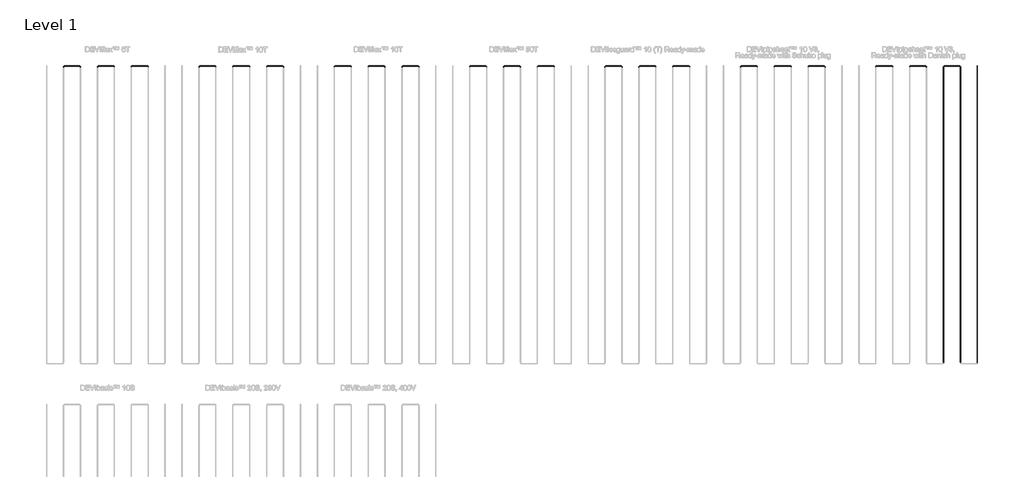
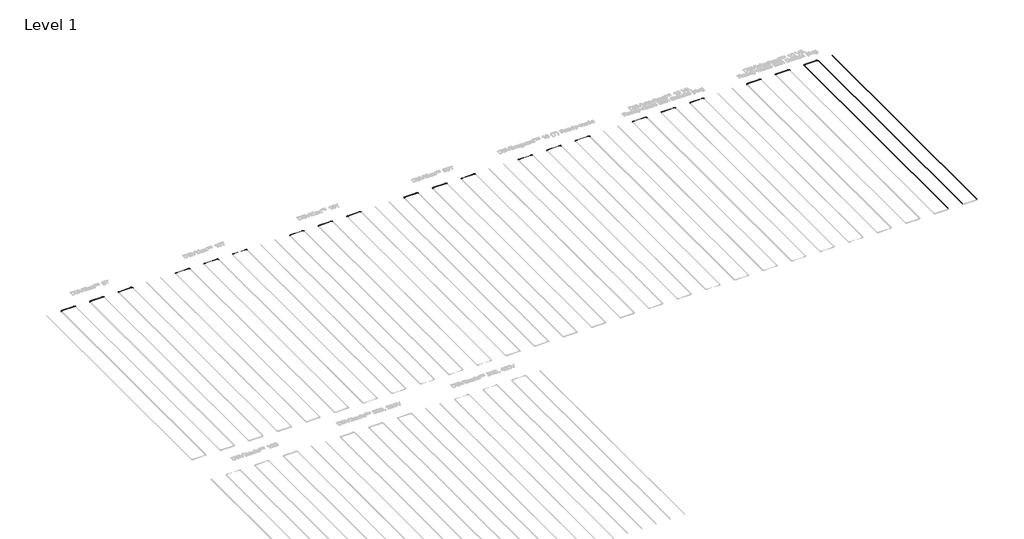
# One storey, part 9 of 26: 42 cable carrier fittings, 24 cable carrier segments.
"""IFC4 building model written with IfcOpenShell, lengths in millimetres."""

from ifc_helpers import new_model, si_unit, point, frame, frame_2d, origin, place, context, project, spatial, circle_curve, trimmed, segment, composite_curve, outline, extrude, transform, mapped, element, save
from components import cable_carrier_fitting_e4b1aeb6

model = new_model("IFC4")

# Units and contexts
model_context = context("Model", 3, world=origin())
ifc_project = project(units=[si_unit("LENGTHUNIT", "METRE", prefix="MILLI")], contexts=[model_context])

# Site, building, storey
site = spatial("IfcSite", under=ifc_project)
building = spatial("IfcBuilding", under=site)
storey = spatial("IfcBuildingStorey", under=building, Name="Level 1", Elevation=0.0)

# Cable carrier fittings
placement = place(None, origin())
cable_carrier_fitting_shape = cable_carrier_fitting_e4b1aeb6(model_context)
element("IfcCableCarrierFitting", 1, ObjectType="Danfoss Elbow : DEVIflex™ 6T", at=placement, inside=storey, context=model_context, shape_type="MappedRepresentation", body=[
    mapped(cable_carrier_fitting_shape, transform((-11087.3402445, 2061.2105921, -100.0), x_axis=(-1.0, 0.0, 0.0), y_axis=(0.0, -1.0, 0.0), z_axis=(0.0, 0.0, 1.0))),
])
element("IfcCableCarrierFitting", 2, ObjectType="Danfoss Elbow : DEVIflex™ 6T", at=placement, inside=storey, context=model_context, shape_type="MappedRepresentation", body=[
    mapped(cable_carrier_fitting_shape, transform((-10587.3402445, 2061.2105921, -100.0), x_axis=(0.0, 1.0, 0.0), y_axis=(-1.0, 0.0, 0.0), z_axis=(0.0, 0.0, 1.0))),
])
element("IfcCableCarrierFitting", 3, ObjectType="Danfoss Elbow : DEVIflex™ 6T", at=placement, inside=storey, context=model_context, shape_type="MappedRepresentation", body=[
    mapped(cable_carrier_fitting_shape, transform((-10087.3402445, 2061.2105921, -100.0), x_axis=(-1.0, 0.0, 0.0), y_axis=(0.0, -1.0, 0.0), z_axis=(0.0, 0.0, 1.0))),
])
element("IfcCableCarrierFitting", 4, ObjectType="Danfoss Elbow : DEVIflex™ 6T", at=placement, inside=storey, context=model_context, shape_type="MappedRepresentation", body=[
    mapped(cable_carrier_fitting_shape, transform((-9587.3402445, 2061.2105921, -100.0), x_axis=(0.0, 1.0, 0.0), y_axis=(-1.0, 0.0, 0.0), z_axis=(0.0, 0.0, 1.0))),
])
element("IfcCableCarrierFitting", 5, ObjectType="Danfoss Elbow : DEVIflex™ 6T", at=placement, inside=storey, context=model_context, shape_type="MappedRepresentation", body=[
    mapped(cable_carrier_fitting_shape, transform((-9087.3402445, 2061.2105921, -100.0), x_axis=(-1.0, 0.0, 0.0), y_axis=(0.0, -1.0, 0.0), z_axis=(0.0, 0.0, 1.0))),
])
element("IfcCableCarrierFitting", 6, ObjectType="Danfoss Elbow : DEVIflex™ 6T", at=placement, inside=storey, context=model_context, shape_type="MappedRepresentation", body=[
    mapped(cable_carrier_fitting_shape, transform((-8587.3402445, 2061.2105921, -100.0), x_axis=(0.0, 1.0, 0.0), y_axis=(-1.0, 0.0, 0.0), z_axis=(0.0, 0.0, 1.0))),
])
element("IfcCableCarrierFitting", 7, ObjectType="Danfoss Elbow : DEVIflex™ 10T", at=placement, inside=storey, context=model_context, shape_type="MappedRepresentation", body=[
    mapped(cable_carrier_fitting_shape, transform((-7087.3402445, 2061.2105921, -100.0), x_axis=(-1.0, 0.0, 0.0), y_axis=(0.0, -1.0, 0.0), z_axis=(0.0, 0.0, 1.0))),
])
element("IfcCableCarrierFitting", 8, ObjectType="Danfoss Elbow : DEVIflex™ 10T", at=placement, inside=storey, context=model_context, shape_type="MappedRepresentation", body=[
    mapped(cable_carrier_fitting_shape, transform((-6587.3402445, 2061.2105921, -100.0), x_axis=(0.0, 1.0, 0.0), y_axis=(-1.0, 0.0, 0.0), z_axis=(0.0, 0.0, 1.0))),
])
element("IfcCableCarrierFitting", 9, ObjectType="Danfoss Elbow : DEVIflex™ 10T", at=placement, inside=storey, context=model_context, shape_type="MappedRepresentation", body=[
    mapped(cable_carrier_fitting_shape, transform((-6087.3402445, 2061.2105921, -100.0), x_axis=(-1.0, 0.0, 0.0), y_axis=(0.0, -1.0, 0.0), z_axis=(0.0, 0.0, 1.0))),
])
element("IfcCableCarrierFitting", 10, ObjectType="Danfoss Elbow : DEVIflex™ 10T", at=placement, inside=storey, context=model_context, shape_type="MappedRepresentation", body=[
    mapped(cable_carrier_fitting_shape, transform((-5587.3402445, 2061.2105921, -100.0), x_axis=(0.0, 1.0, 0.0), y_axis=(-1.0, 0.0, 0.0), z_axis=(0.0, 0.0, 1.0))),
])
element("IfcCableCarrierFitting", 11, ObjectType="Danfoss Elbow : DEVIflex™ 10T", at=placement, inside=storey, context=model_context, shape_type="MappedRepresentation", body=[
    mapped(cable_carrier_fitting_shape, transform((-5087.3402445, 2061.2105921, -100.0), x_axis=(-1.0, 0.0, 0.0), y_axis=(0.0, -1.0, 0.0), z_axis=(0.0, 0.0, 1.0))),
])
element("IfcCableCarrierFitting", 12, ObjectType="Danfoss Elbow : DEVIflex™ 10T", at=placement, inside=storey, context=model_context, shape_type="MappedRepresentation", body=[
    mapped(cable_carrier_fitting_shape, transform((-4587.3402445, 2061.2105921, -100.0), x_axis=(0.0, 1.0, 0.0), y_axis=(-1.0, 0.0, 0.0), z_axis=(0.0, 0.0, 1.0))),
])
element("IfcCableCarrierFitting", 13, ObjectType="Danfoss Elbow : DEVIflex™ 18T", at=placement, inside=storey, context=model_context, shape_type="MappedRepresentation", body=[
    mapped(cable_carrier_fitting_shape, transform((-3087.3402445, 2061.2105921, -100.0), x_axis=(-1.0, 0.0, 0.0), y_axis=(0.0, -1.0, 0.0), z_axis=(0.0, 0.0, 1.0))),
])
element("IfcCableCarrierFitting", 14, ObjectType="Danfoss Elbow : DEVIflex™ 18T", at=placement, inside=storey, context=model_context, shape_type="MappedRepresentation", body=[
    mapped(cable_carrier_fitting_shape, transform((-2587.3402445, 2061.2105921, -100.0), x_axis=(0.0, 1.0, 0.0), y_axis=(-1.0, 0.0, 0.0), z_axis=(0.0, 0.0, 1.0))),
])
element("IfcCableCarrierFitting", 15, ObjectType="Danfoss Elbow : DEVIflex™ 18T", at=placement, inside=storey, context=model_context, shape_type="MappedRepresentation", body=[
    mapped(cable_carrier_fitting_shape, transform((-2087.3402445, 2061.2105921, -100.0), x_axis=(-1.0, 0.0, 0.0), y_axis=(0.0, -1.0, 0.0), z_axis=(0.0, 0.0, 1.0))),
])
element("IfcCableCarrierFitting", 16, ObjectType="Danfoss Elbow : DEVIflex™ 18T", at=placement, inside=storey, context=model_context, shape_type="MappedRepresentation", body=[
    mapped(cable_carrier_fitting_shape, transform((-1587.3402445, 2061.2105921, -100.0), x_axis=(0.0, 1.0, 0.0), y_axis=(-1.0, 0.0, 0.0), z_axis=(0.0, 0.0, 1.0))),
])
element("IfcCableCarrierFitting", 17, ObjectType="Danfoss Elbow : DEVIflex™ 18T", at=placement, inside=storey, context=model_context, shape_type="MappedRepresentation", body=[
    mapped(cable_carrier_fitting_shape, transform((-1087.3402445, 2061.2105921, -100.0), x_axis=(-1.0, 0.0, 0.0), y_axis=(0.0, -1.0, 0.0), z_axis=(0.0, 0.0, 1.0))),
])
element("IfcCableCarrierFitting", 18, ObjectType="Danfoss Elbow : DEVIflex™ 18T", at=placement, inside=storey, context=model_context, shape_type="MappedRepresentation", body=[
    mapped(cable_carrier_fitting_shape, transform((-587.3402445, 2061.2105921, -100.0), x_axis=(0.0, 1.0, 0.0), y_axis=(-1.0, 0.0, 0.0), z_axis=(0.0, 0.0, 1.0))),
])
element("IfcCableCarrierFitting", 19, ObjectType="Danfoss Elbow : DEVIflex™ 30T", at=placement, inside=storey, context=model_context, shape_type="MappedRepresentation", body=[
    mapped(cable_carrier_fitting_shape, transform((912.6597555, 2061.2105921, -100.0), x_axis=(-1.0, 0.0, 0.0), y_axis=(0.0, -1.0, 0.0), z_axis=(0.0, 0.0, 1.0))),
])
element("IfcCableCarrierFitting", 20, ObjectType="Danfoss Elbow : DEVIflex™ 30T", at=placement, inside=storey, context=model_context, shape_type="MappedRepresentation", body=[
    mapped(cable_carrier_fitting_shape, transform((1412.6597555, 2061.2105921, -100.0), x_axis=(0.0, 1.0, 0.0), y_axis=(-1.0, 0.0, 0.0), z_axis=(0.0, 0.0, 1.0))),
])
element("IfcCableCarrierFitting", 21, ObjectType="Danfoss Elbow : DEVIflex™ 30T", at=placement, inside=storey, context=model_context, shape_type="MappedRepresentation", body=[
    mapped(cable_carrier_fitting_shape, transform((1912.6597555, 2061.2105921, -100.0), x_axis=(-1.0, 0.0, 0.0), y_axis=(0.0, -1.0, 0.0), z_axis=(0.0, 0.0, 1.0))),
])
element("IfcCableCarrierFitting", 22, ObjectType="Danfoss Elbow : DEVIflex™ 30T", at=placement, inside=storey, context=model_context, shape_type="MappedRepresentation", body=[
    mapped(cable_carrier_fitting_shape, transform((2412.6597555, 2061.2105921, -100.0), x_axis=(0.0, 1.0, 0.0), y_axis=(-1.0, 0.0, 0.0), z_axis=(0.0, 0.0, 1.0))),
])
element("IfcCableCarrierFitting", 23, ObjectType="Danfoss Elbow : DEVIflex™ 30T", at=placement, inside=storey, context=model_context, shape_type="MappedRepresentation", body=[
    mapped(cable_carrier_fitting_shape, transform((2912.6597555, 2061.2105921, -100.0), x_axis=(-1.0, 0.0, 0.0), y_axis=(0.0, -1.0, 0.0), z_axis=(0.0, 0.0, 1.0))),
])
element("IfcCableCarrierFitting", 24, ObjectType="Danfoss Elbow : DEVIflex™ 30T", at=placement, inside=storey, context=model_context, shape_type="MappedRepresentation", body=[
    mapped(cable_carrier_fitting_shape, transform((3412.6597555, 2061.2105921, -100.0), x_axis=(0.0, 1.0, 0.0), y_axis=(-1.0, 0.0, 0.0), z_axis=(0.0, 0.0, 1.0))),
])
element("IfcCableCarrierFitting", 25, ObjectType="Danfoss Elbow : DEVIiceguard™ 18 (T) Ready-made", at=placement, inside=storey, context=model_context, shape_type="MappedRepresentation", body=[
    mapped(cable_carrier_fitting_shape, transform((4912.6597555, 2061.2105921, -100.0), x_axis=(-1.0, 0.0, 0.0), y_axis=(0.0, -1.0, 0.0), z_axis=(0.0, 0.0, 1.0))),
])
element("IfcCableCarrierFitting", 26, ObjectType="Danfoss Elbow : DEVIiceguard™ 18 (T) Ready-made", at=placement, inside=storey, context=model_context, shape_type="MappedRepresentation", body=[
    mapped(cable_carrier_fitting_shape, transform((5412.6597555, 2061.2105921, -100.0), x_axis=(0.0, 1.0, 0.0), y_axis=(-1.0, 0.0, 0.0), z_axis=(0.0, 0.0, 1.0))),
])
element("IfcCableCarrierFitting", 27, ObjectType="Danfoss Elbow : DEVIiceguard™ 18 (T) Ready-made", at=placement, inside=storey, context=model_context, shape_type="MappedRepresentation", body=[
    mapped(cable_carrier_fitting_shape, transform((5912.6597555, 2061.2105921, -100.0), x_axis=(-1.0, 0.0, 0.0), y_axis=(0.0, -1.0, 0.0), z_axis=(0.0, 0.0, 1.0))),
])
element("IfcCableCarrierFitting", 28, ObjectType="Danfoss Elbow : DEVIiceguard™ 18 (T) Ready-made", at=placement, inside=storey, context=model_context, shape_type="MappedRepresentation", body=[
    mapped(cable_carrier_fitting_shape, transform((6412.6597555, 2061.2105921, -100.0), x_axis=(0.0, 1.0, 0.0), y_axis=(-1.0, 0.0, 0.0), z_axis=(0.0, 0.0, 1.0))),
])
element("IfcCableCarrierFitting", 29, ObjectType="Danfoss Elbow : DEVIiceguard™ 18 (T) Ready-made", at=placement, inside=storey, context=model_context, shape_type="MappedRepresentation", body=[
    mapped(cable_carrier_fitting_shape, transform((6912.6597555, 2061.2105921, -100.0), x_axis=(-1.0, 0.0, 0.0), y_axis=(0.0, -1.0, 0.0), z_axis=(0.0, 0.0, 1.0))),
])
element("IfcCableCarrierFitting", 30, ObjectType="Danfoss Elbow : DEVIiceguard™ 18 (T) Ready-made", at=placement, inside=storey, context=model_context, shape_type="MappedRepresentation", body=[
    mapped(cable_carrier_fitting_shape, transform((7412.6597555, 2061.2105921, -100.0), x_axis=(0.0, 1.0, 0.0), y_axis=(-1.0, 0.0, 0.0), z_axis=(0.0, 0.0, 1.0))),
])
element("IfcCableCarrierFitting", 31, ObjectType="Danfoss Elbow : DEVIpipeheat™ 10 V3, Ready-made with Schuko plug", at=placement, inside=storey, context=model_context, shape_type="MappedRepresentation", body=[
    mapped(cable_carrier_fitting_shape, transform((8912.6597555, 2061.2105921, -100.0), x_axis=(-1.0, 0.0, 0.0), y_axis=(0.0, -1.0, 0.0), z_axis=(0.0, 0.0, 1.0))),
])
element("IfcCableCarrierFitting", 32, ObjectType="Danfoss Elbow : DEVIpipeheat™ 10 V3, Ready-made with Schuko plug", at=placement, inside=storey, context=model_context, shape_type="MappedRepresentation", body=[
    mapped(cable_carrier_fitting_shape, transform((9412.6597555, 2061.2105921, -100.0), x_axis=(0.0, 1.0, 0.0), y_axis=(-1.0, 0.0, 0.0), z_axis=(0.0, 0.0, 1.0))),
])
element("IfcCableCarrierFitting", 33, ObjectType="Danfoss Elbow : DEVIpipeheat™ 10 V3, Ready-made with Schuko plug", at=placement, inside=storey, context=model_context, shape_type="MappedRepresentation", body=[
    mapped(cable_carrier_fitting_shape, transform((9912.6597555, 2061.2105921, -100.0), x_axis=(-1.0, 0.0, 0.0), y_axis=(0.0, -1.0, 0.0), z_axis=(0.0, 0.0, 1.0))),
])
element("IfcCableCarrierFitting", 34, ObjectType="Danfoss Elbow : DEVIpipeheat™ 10 V3, Ready-made with Schuko plug", at=placement, inside=storey, context=model_context, shape_type="MappedRepresentation", body=[
    mapped(cable_carrier_fitting_shape, transform((10412.6597555, 2061.2105921, -100.0), x_axis=(0.0, 1.0, 0.0), y_axis=(-1.0, 0.0, 0.0), z_axis=(0.0, 0.0, 1.0))),
])
element("IfcCableCarrierFitting", 35, ObjectType="Danfoss Elbow : DEVIpipeheat™ 10 V3, Ready-made with Schuko plug", at=placement, inside=storey, context=model_context, shape_type="MappedRepresentation", body=[
    mapped(cable_carrier_fitting_shape, transform((10912.6597555, 2061.2105921, -100.0), x_axis=(-1.0, 0.0, 0.0), y_axis=(0.0, -1.0, 0.0), z_axis=(0.0, 0.0, 1.0))),
])
element("IfcCableCarrierFitting", 36, ObjectType="Danfoss Elbow : DEVIpipeheat™ 10 V3, Ready-made with Schuko plug", at=placement, inside=storey, context=model_context, shape_type="MappedRepresentation", body=[
    mapped(cable_carrier_fitting_shape, transform((11412.6597555, 2061.2105921, -100.0), x_axis=(0.0, 1.0, 0.0), y_axis=(-1.0, 0.0, 0.0), z_axis=(0.0, 0.0, 1.0))),
])
element("IfcCableCarrierFitting", 37, ObjectType="Danfoss Elbow : DEVIpipeheat™ 10 V3, Ready-made with Danish plug", at=placement, inside=storey, context=model_context, shape_type="MappedRepresentation", body=[
    mapped(cable_carrier_fitting_shape, transform((12912.6597555, 2061.2105921, -100.0), x_axis=(-1.0, 0.0, 0.0), y_axis=(0.0, -1.0, 0.0), z_axis=(0.0, 0.0, 1.0))),
])
element("IfcCableCarrierFitting", 38, ObjectType="Danfoss Elbow : DEVIpipeheat™ 10 V3, Ready-made with Danish plug", at=placement, inside=storey, context=model_context, shape_type="MappedRepresentation", body=[
    mapped(cable_carrier_fitting_shape, transform((13412.6597555, 2061.2105921, -100.0), x_axis=(0.0, 1.0, 0.0), y_axis=(-1.0, 0.0, 0.0), z_axis=(0.0, 0.0, 1.0))),
])
element("IfcCableCarrierFitting", 39, ObjectType="Danfoss Elbow : DEVIpipeheat™ 10 V3, Ready-made with Danish plug", at=placement, inside=storey, context=model_context, shape_type="MappedRepresentation", body=[
    mapped(cable_carrier_fitting_shape, transform((13912.6597555, 2061.2105921, -100.0), x_axis=(-1.0, 0.0, 0.0), y_axis=(0.0, -1.0, 0.0), z_axis=(0.0, 0.0, 1.0))),
])
element("IfcCableCarrierFitting", 40, ObjectType="Danfoss Elbow : DEVIpipeheat™ 10 V3, Ready-made with Danish plug", at=placement, inside=storey, context=model_context, shape_type="MappedRepresentation", body=[
    mapped(cable_carrier_fitting_shape, transform((14412.6597555, 2061.2105921, -100.0), x_axis=(0.0, 1.0, 0.0), y_axis=(-1.0, 0.0, 0.0), z_axis=(0.0, 0.0, 1.0))),
])
element("IfcCableCarrierFitting", 41, ObjectType="Danfoss Elbow : DEVIpipeheat™ 10 V3, Ready-made with Danish plug", at=placement, inside=storey, context=model_context, shape_type="MappedRepresentation", body=[
    mapped(cable_carrier_fitting_shape, transform((14912.6597555, 2061.2105921, -100.0), x_axis=(-1.0, 0.0, 0.0), y_axis=(0.0, -1.0, 0.0), z_axis=(0.0, 0.0, 1.0))),
])
element("IfcCableCarrierFitting", 42, ObjectType="Danfoss Elbow : DEVIpipeheat™ 10 V3, Ready-made with Danish plug", at=placement, inside=storey, context=model_context, shape_type="MappedRepresentation", body=[
    mapped(cable_carrier_fitting_shape, transform((15412.6597555, 2061.2105921, -100.0), x_axis=(0.0, 1.0, 0.0), y_axis=(-1.0, 0.0, 0.0), z_axis=(0.0, 0.0, 1.0))),
])

# Cable carrier segments
element("IfcCableCarrierSegment", 43, ObjectType="DEVIflex™ 6T", at=placement, inside=storey, context=model_context, shape_type="SweptSolid", body=[
    extrude(outline(composite_curve([segment(trimmed(circle_curve(frame_2d((2061.2105921, -100.0)), 3.45), [point((2057.7605921, -100.0))], [point((2061.2105921, -96.55))], False, "CARTESIAN"), True, "CONTINUOUS"), segment(trimmed(circle_curve(frame_2d((2061.2105921, -100.0)), 3.45), [point((2061.2105921, -96.55))], [point((2064.6605921, -100.0))], False, "CARTESIAN"), True, "CONTINUOUS"), segment(trimmed(circle_curve(frame_2d((2061.2105921, -100.0)), 3.45), [point((2064.6605921, -100.0))], [point((2061.2105921, -103.45))], False, "CARTESIAN"), True, "CONTINUOUS"), segment(trimmed(circle_curve(frame_2d((2061.2105921, -100.0)), 3.45), [point((2061.2105921, -103.45))], [point((2057.7605921, -100.0))], False, "CARTESIAN"), True, "CONTINUOUS")], self_intersect=False)), frame((-11052.3402445, 0.0, 0.0), z_axis=(1.0, 0.0, 0.0), x_axis=(0.0, 1.0, 0.0)), (0.0, 0.0, 1.0), 430.0),
])
element("IfcCableCarrierSegment", 44, ObjectType="DEVIflex™ 6T", at=placement, inside=storey, context=model_context, shape_type="SweptSolid", body=[
    extrude(outline(composite_curve([segment(trimmed(circle_curve(frame_2d((2061.2105921, -100.0)), 3.45), [point((2057.7605921, -100.0))], [point((2061.2105921, -96.55))], False, "CARTESIAN"), True, "CONTINUOUS"), segment(trimmed(circle_curve(frame_2d((2061.2105921, -100.0)), 3.45), [point((2061.2105921, -96.55))], [point((2064.6605921, -100.0))], False, "CARTESIAN"), True, "CONTINUOUS"), segment(trimmed(circle_curve(frame_2d((2061.2105921, -100.0)), 3.45), [point((2064.6605921, -100.0))], [point((2061.2105921, -103.45))], False, "CARTESIAN"), True, "CONTINUOUS"), segment(trimmed(circle_curve(frame_2d((2061.2105921, -100.0)), 3.45), [point((2061.2105921, -103.45))], [point((2057.7605921, -100.0))], False, "CARTESIAN"), True, "CONTINUOUS")], self_intersect=False)), frame((-10052.3402445, 0.0, 0.0), z_axis=(1.0, 0.0, 0.0), x_axis=(0.0, 1.0, 0.0)), (0.0, 0.0, 1.0), 430.0),
])
element("IfcCableCarrierSegment", 45, ObjectType="DEVIflex™ 6T", at=placement, inside=storey, context=model_context, shape_type="SweptSolid", body=[
    extrude(outline(composite_curve([segment(trimmed(circle_curve(frame_2d((2061.2105921, -100.0)), 3.45), [point((2057.7605921, -100.0))], [point((2061.2105921, -96.55))], False, "CARTESIAN"), True, "CONTINUOUS"), segment(trimmed(circle_curve(frame_2d((2061.2105921, -100.0)), 3.45), [point((2061.2105921, -96.55))], [point((2064.6605921, -100.0))], False, "CARTESIAN"), True, "CONTINUOUS"), segment(trimmed(circle_curve(frame_2d((2061.2105921, -100.0)), 3.45), [point((2064.6605921, -100.0))], [point((2061.2105921, -103.45))], False, "CARTESIAN"), True, "CONTINUOUS"), segment(trimmed(circle_curve(frame_2d((2061.2105921, -100.0)), 3.45), [point((2061.2105921, -103.45))], [point((2057.7605921, -100.0))], False, "CARTESIAN"), True, "CONTINUOUS")], self_intersect=False)), frame((-9052.3402445, 0.0, 0.0), z_axis=(1.0, 0.0, 0.0), x_axis=(0.0, 1.0, 0.0)), (0.0, 0.0, 1.0), 430.0),
])
element("IfcCableCarrierSegment", 46, ObjectType="DEVIflex™ 10T", at=placement, inside=storey, context=model_context, shape_type="SweptSolid", body=[
    extrude(outline(composite_curve([segment(trimmed(circle_curve(frame_2d((2061.2105921, -100.0)), 3.45), [point((2057.7605921, -100.0))], [point((2061.2105921, -96.55))], False, "CARTESIAN"), True, "CONTINUOUS"), segment(trimmed(circle_curve(frame_2d((2061.2105921, -100.0)), 3.45), [point((2061.2105921, -96.55))], [point((2064.6605921, -100.0))], False, "CARTESIAN"), True, "CONTINUOUS"), segment(trimmed(circle_curve(frame_2d((2061.2105921, -100.0)), 3.45), [point((2064.6605921, -100.0))], [point((2061.2105921, -103.45))], False, "CARTESIAN"), True, "CONTINUOUS"), segment(trimmed(circle_curve(frame_2d((2061.2105921, -100.0)), 3.45), [point((2061.2105921, -103.45))], [point((2057.7605921, -100.0))], False, "CARTESIAN"), True, "CONTINUOUS")], self_intersect=False)), frame((-7052.3402445, 0.0, 0.0), z_axis=(1.0, 0.0, 0.0), x_axis=(0.0, 1.0, 0.0)), (0.0, 0.0, 1.0), 430.0),
])
element("IfcCableCarrierSegment", 47, ObjectType="DEVIflex™ 10T", at=placement, inside=storey, context=model_context, shape_type="SweptSolid", body=[
    extrude(outline(composite_curve([segment(trimmed(circle_curve(frame_2d((2061.2105921, -100.0)), 3.45), [point((2057.7605921, -100.0))], [point((2061.2105921, -96.55))], False, "CARTESIAN"), True, "CONTINUOUS"), segment(trimmed(circle_curve(frame_2d((2061.2105921, -100.0)), 3.45), [point((2061.2105921, -96.55))], [point((2064.6605921, -100.0))], False, "CARTESIAN"), True, "CONTINUOUS"), segment(trimmed(circle_curve(frame_2d((2061.2105921, -100.0)), 3.45), [point((2064.6605921, -100.0))], [point((2061.2105921, -103.45))], False, "CARTESIAN"), True, "CONTINUOUS"), segment(trimmed(circle_curve(frame_2d((2061.2105921, -100.0)), 3.45), [point((2061.2105921, -103.45))], [point((2057.7605921, -100.0))], False, "CARTESIAN"), True, "CONTINUOUS")], self_intersect=False)), frame((-6052.3402445, 0.0, 0.0), z_axis=(1.0, 0.0, 0.0), x_axis=(0.0, 1.0, 0.0)), (0.0, 0.0, 1.0), 430.0),
])
element("IfcCableCarrierSegment", 48, ObjectType="DEVIflex™ 10T", at=placement, inside=storey, context=model_context, shape_type="SweptSolid", body=[
    extrude(outline(composite_curve([segment(trimmed(circle_curve(frame_2d((2061.2105921, -100.0)), 3.45), [point((2057.7605921, -100.0))], [point((2061.2105921, -96.55))], False, "CARTESIAN"), True, "CONTINUOUS"), segment(trimmed(circle_curve(frame_2d((2061.2105921, -100.0)), 3.45), [point((2061.2105921, -96.55))], [point((2064.6605921, -100.0))], False, "CARTESIAN"), True, "CONTINUOUS"), segment(trimmed(circle_curve(frame_2d((2061.2105921, -100.0)), 3.45), [point((2064.6605921, -100.0))], [point((2061.2105921, -103.45))], False, "CARTESIAN"), True, "CONTINUOUS"), segment(trimmed(circle_curve(frame_2d((2061.2105921, -100.0)), 3.45), [point((2061.2105921, -103.45))], [point((2057.7605921, -100.0))], False, "CARTESIAN"), True, "CONTINUOUS")], self_intersect=False)), frame((-5052.3402445, 0.0, 0.0), z_axis=(1.0, 0.0, 0.0), x_axis=(0.0, 1.0, 0.0)), (0.0, 0.0, 1.0), 430.0),
])
element("IfcCableCarrierSegment", 49, ObjectType="DEVIflex™ 18T", at=placement, inside=storey, context=model_context, shape_type="SweptSolid", body=[
    extrude(outline(composite_curve([segment(trimmed(circle_curve(frame_2d((2061.2105921, -100.0)), 3.45), [point((2057.7605921, -100.0))], [point((2061.2105921, -96.55))], False, "CARTESIAN"), True, "CONTINUOUS"), segment(trimmed(circle_curve(frame_2d((2061.2105921, -100.0)), 3.45), [point((2061.2105921, -96.55))], [point((2064.6605921, -100.0))], False, "CARTESIAN"), True, "CONTINUOUS"), segment(trimmed(circle_curve(frame_2d((2061.2105921, -100.0)), 3.45), [point((2064.6605921, -100.0))], [point((2061.2105921, -103.45))], False, "CARTESIAN"), True, "CONTINUOUS"), segment(trimmed(circle_curve(frame_2d((2061.2105921, -100.0)), 3.45), [point((2061.2105921, -103.45))], [point((2057.7605921, -100.0))], False, "CARTESIAN"), True, "CONTINUOUS")], self_intersect=False)), frame((-3052.3402445, 0.0, 0.0), z_axis=(1.0, 0.0, 0.0), x_axis=(0.0, 1.0, 0.0)), (0.0, 0.0, 1.0), 430.0),
])
element("IfcCableCarrierSegment", 50, ObjectType="DEVIflex™ 18T", at=placement, inside=storey, context=model_context, shape_type="SweptSolid", body=[
    extrude(outline(composite_curve([segment(trimmed(circle_curve(frame_2d((2061.2105921, -100.0)), 3.45), [point((2057.7605921, -100.0))], [point((2061.2105921, -96.55))], False, "CARTESIAN"), True, "CONTINUOUS"), segment(trimmed(circle_curve(frame_2d((2061.2105921, -100.0)), 3.45), [point((2061.2105921, -96.55))], [point((2064.6605921, -100.0))], False, "CARTESIAN"), True, "CONTINUOUS"), segment(trimmed(circle_curve(frame_2d((2061.2105921, -100.0)), 3.45), [point((2064.6605921, -100.0))], [point((2061.2105921, -103.45))], False, "CARTESIAN"), True, "CONTINUOUS"), segment(trimmed(circle_curve(frame_2d((2061.2105921, -100.0)), 3.45), [point((2061.2105921, -103.45))], [point((2057.7605921, -100.0))], False, "CARTESIAN"), True, "CONTINUOUS")], self_intersect=False)), frame((-2052.3402445, 0.0, 0.0), z_axis=(1.0, 0.0, 0.0), x_axis=(0.0, 1.0, 0.0)), (0.0, 0.0, 1.0), 430.0),
])
element("IfcCableCarrierSegment", 51, ObjectType="DEVIflex™ 18T", at=placement, inside=storey, context=model_context, shape_type="SweptSolid", body=[
    extrude(outline(composite_curve([segment(trimmed(circle_curve(frame_2d((2061.2105921, -100.0)), 3.45), [point((2057.7605921, -100.0))], [point((2061.2105921, -96.55))], False, "CARTESIAN"), True, "CONTINUOUS"), segment(trimmed(circle_curve(frame_2d((2061.2105921, -100.0)), 3.45), [point((2061.2105921, -96.55))], [point((2064.6605921, -100.0))], False, "CARTESIAN"), True, "CONTINUOUS"), segment(trimmed(circle_curve(frame_2d((2061.2105921, -100.0)), 3.45), [point((2064.6605921, -100.0))], [point((2061.2105921, -103.45))], False, "CARTESIAN"), True, "CONTINUOUS"), segment(trimmed(circle_curve(frame_2d((2061.2105921, -100.0)), 3.45), [point((2061.2105921, -103.45))], [point((2057.7605921, -100.0))], False, "CARTESIAN"), True, "CONTINUOUS")], self_intersect=False)), frame((-1052.3402445, 0.0, 0.0), z_axis=(1.0, 0.0, 0.0), x_axis=(0.0, 1.0, 0.0)), (0.0, 0.0, 1.0), 430.0),
])
element("IfcCableCarrierSegment", 52, ObjectType="DEVIflex™ 30T", at=placement, inside=storey, context=model_context, shape_type="SweptSolid", body=[
    extrude(outline(composite_curve([segment(trimmed(circle_curve(frame_2d((2061.2105921, -100.0)), 3.45), [point((2057.7605921, -100.0))], [point((2061.2105921, -96.55))], False, "CARTESIAN"), True, "CONTINUOUS"), segment(trimmed(circle_curve(frame_2d((2061.2105921, -100.0)), 3.45), [point((2061.2105921, -96.55))], [point((2064.6605921, -100.0))], False, "CARTESIAN"), True, "CONTINUOUS"), segment(trimmed(circle_curve(frame_2d((2061.2105921, -100.0)), 3.45), [point((2064.6605921, -100.0))], [point((2061.2105921, -103.45))], False, "CARTESIAN"), True, "CONTINUOUS"), segment(trimmed(circle_curve(frame_2d((2061.2105921, -100.0)), 3.45), [point((2061.2105921, -103.45))], [point((2057.7605921, -100.0))], False, "CARTESIAN"), True, "CONTINUOUS")], self_intersect=False)), frame((947.6597555, 0.0, 0.0), z_axis=(1.0, 0.0, 0.0), x_axis=(0.0, 1.0, 0.0)), (0.0, 0.0, 1.0), 430.0),
])
element("IfcCableCarrierSegment", 53, ObjectType="DEVIflex™ 30T", at=placement, inside=storey, context=model_context, shape_type="SweptSolid", body=[
    extrude(outline(composite_curve([segment(trimmed(circle_curve(frame_2d((2061.2105921, -100.0)), 3.45), [point((2057.7605921, -100.0))], [point((2061.2105921, -96.55))], False, "CARTESIAN"), True, "CONTINUOUS"), segment(trimmed(circle_curve(frame_2d((2061.2105921, -100.0)), 3.45), [point((2061.2105921, -96.55))], [point((2064.6605921, -100.0))], False, "CARTESIAN"), True, "CONTINUOUS"), segment(trimmed(circle_curve(frame_2d((2061.2105921, -100.0)), 3.45), [point((2064.6605921, -100.0))], [point((2061.2105921, -103.45))], False, "CARTESIAN"), True, "CONTINUOUS"), segment(trimmed(circle_curve(frame_2d((2061.2105921, -100.0)), 3.45), [point((2061.2105921, -103.45))], [point((2057.7605921, -100.0))], False, "CARTESIAN"), True, "CONTINUOUS")], self_intersect=False)), frame((1947.6597555, 0.0, 0.0), z_axis=(1.0, 0.0, 0.0), x_axis=(0.0, 1.0, 0.0)), (0.0, 0.0, 1.0), 430.0),
])
element("IfcCableCarrierSegment", 54, ObjectType="DEVIflex™ 30T", at=placement, inside=storey, context=model_context, shape_type="SweptSolid", body=[
    extrude(outline(composite_curve([segment(trimmed(circle_curve(frame_2d((2061.2105921, -100.0)), 3.45), [point((2057.7605921, -100.0))], [point((2061.2105921, -96.55))], False, "CARTESIAN"), True, "CONTINUOUS"), segment(trimmed(circle_curve(frame_2d((2061.2105921, -100.0)), 3.45), [point((2061.2105921, -96.55))], [point((2064.6605921, -100.0))], False, "CARTESIAN"), True, "CONTINUOUS"), segment(trimmed(circle_curve(frame_2d((2061.2105921, -100.0)), 3.45), [point((2064.6605921, -100.0))], [point((2061.2105921, -103.45))], False, "CARTESIAN"), True, "CONTINUOUS"), segment(trimmed(circle_curve(frame_2d((2061.2105921, -100.0)), 3.45), [point((2061.2105921, -103.45))], [point((2057.7605921, -100.0))], False, "CARTESIAN"), True, "CONTINUOUS")], self_intersect=False)), frame((2947.6597555, 0.0, 0.0), z_axis=(1.0, 0.0, 0.0), x_axis=(0.0, 1.0, 0.0)), (0.0, 0.0, 1.0), 430.0),
])
element("IfcCableCarrierSegment", 55, ObjectType="DEVIiceguard™ 18 (T) Ready-made", at=placement, inside=storey, context=model_context, shape_type="SweptSolid", body=[
    extrude(outline(composite_curve([segment(trimmed(circle_curve(frame_2d((2061.2105921, -100.0)), 3.45), [point((2057.7605921, -100.0))], [point((2061.2105921, -96.55))], False, "CARTESIAN"), True, "CONTINUOUS"), segment(trimmed(circle_curve(frame_2d((2061.2105921, -100.0)), 3.45), [point((2061.2105921, -96.55))], [point((2064.6605921, -100.0))], False, "CARTESIAN"), True, "CONTINUOUS"), segment(trimmed(circle_curve(frame_2d((2061.2105921, -100.0)), 3.45), [point((2064.6605921, -100.0))], [point((2061.2105921, -103.45))], False, "CARTESIAN"), True, "CONTINUOUS"), segment(trimmed(circle_curve(frame_2d((2061.2105921, -100.0)), 3.45), [point((2061.2105921, -103.45))], [point((2057.7605921, -100.0))], False, "CARTESIAN"), True, "CONTINUOUS")], self_intersect=False)), frame((4947.6597555, 0.0, 0.0), z_axis=(1.0, 0.0, 0.0), x_axis=(0.0, 1.0, 0.0)), (0.0, 0.0, 1.0), 430.0),
])
element("IfcCableCarrierSegment", 56, ObjectType="DEVIiceguard™ 18 (T) Ready-made", at=placement, inside=storey, context=model_context, shape_type="SweptSolid", body=[
    extrude(outline(composite_curve([segment(trimmed(circle_curve(frame_2d((2061.2105921, -100.0)), 3.45), [point((2057.7605921, -100.0))], [point((2061.2105921, -96.55))], False, "CARTESIAN"), True, "CONTINUOUS"), segment(trimmed(circle_curve(frame_2d((2061.2105921, -100.0)), 3.45), [point((2061.2105921, -96.55))], [point((2064.6605921, -100.0))], False, "CARTESIAN"), True, "CONTINUOUS"), segment(trimmed(circle_curve(frame_2d((2061.2105921, -100.0)), 3.45), [point((2064.6605921, -100.0))], [point((2061.2105921, -103.45))], False, "CARTESIAN"), True, "CONTINUOUS"), segment(trimmed(circle_curve(frame_2d((2061.2105921, -100.0)), 3.45), [point((2061.2105921, -103.45))], [point((2057.7605921, -100.0))], False, "CARTESIAN"), True, "CONTINUOUS")], self_intersect=False)), frame((5947.6597555, 0.0, 0.0), z_axis=(1.0, 0.0, 0.0), x_axis=(0.0, 1.0, 0.0)), (0.0, 0.0, 1.0), 430.0),
])
element("IfcCableCarrierSegment", 57, ObjectType="DEVIiceguard™ 18 (T) Ready-made", at=placement, inside=storey, context=model_context, shape_type="SweptSolid", body=[
    extrude(outline(composite_curve([segment(trimmed(circle_curve(frame_2d((2061.2105921, -100.0)), 3.45), [point((2057.7605921, -100.0))], [point((2061.2105921, -96.55))], False, "CARTESIAN"), True, "CONTINUOUS"), segment(trimmed(circle_curve(frame_2d((2061.2105921, -100.0)), 3.45), [point((2061.2105921, -96.55))], [point((2064.6605921, -100.0))], False, "CARTESIAN"), True, "CONTINUOUS"), segment(trimmed(circle_curve(frame_2d((2061.2105921, -100.0)), 3.45), [point((2064.6605921, -100.0))], [point((2061.2105921, -103.45))], False, "CARTESIAN"), True, "CONTINUOUS"), segment(trimmed(circle_curve(frame_2d((2061.2105921, -100.0)), 3.45), [point((2061.2105921, -103.45))], [point((2057.7605921, -100.0))], False, "CARTESIAN"), True, "CONTINUOUS")], self_intersect=False)), frame((6947.6597555, 0.0, 0.0), z_axis=(1.0, 0.0, 0.0), x_axis=(0.0, 1.0, 0.0)), (0.0, 0.0, 1.0), 430.0),
])
element("IfcCableCarrierSegment", 58, ObjectType="DEVIpipeheat™ 10 V3, Ready-made with Schuko plug", at=placement, inside=storey, context=model_context, shape_type="SweptSolid", body=[
    extrude(outline(composite_curve([segment(trimmed(circle_curve(frame_2d((2061.2105921, -100.0)), 3.45), [point((2057.7605921, -100.0))], [point((2061.2105921, -96.55))], False, "CARTESIAN"), True, "CONTINUOUS"), segment(trimmed(circle_curve(frame_2d((2061.2105921, -100.0)), 3.45), [point((2061.2105921, -96.55))], [point((2064.6605921, -100.0))], False, "CARTESIAN"), True, "CONTINUOUS"), segment(trimmed(circle_curve(frame_2d((2061.2105921, -100.0)), 3.45), [point((2064.6605921, -100.0))], [point((2061.2105921, -103.45))], False, "CARTESIAN"), True, "CONTINUOUS"), segment(trimmed(circle_curve(frame_2d((2061.2105921, -100.0)), 3.45), [point((2061.2105921, -103.45))], [point((2057.7605921, -100.0))], False, "CARTESIAN"), True, "CONTINUOUS")], self_intersect=False)), frame((8947.6597555, 0.0, 0.0), z_axis=(1.0, 0.0, 0.0), x_axis=(0.0, 1.0, 0.0)), (0.0, 0.0, 1.0), 430.0),
])
element("IfcCableCarrierSegment", 59, ObjectType="DEVIpipeheat™ 10 V3, Ready-made with Schuko plug", at=placement, inside=storey, context=model_context, shape_type="SweptSolid", body=[
    extrude(outline(composite_curve([segment(trimmed(circle_curve(frame_2d((2061.2105921, -100.0)), 3.45), [point((2057.7605921, -100.0))], [point((2061.2105921, -96.55))], False, "CARTESIAN"), True, "CONTINUOUS"), segment(trimmed(circle_curve(frame_2d((2061.2105921, -100.0)), 3.45), [point((2061.2105921, -96.55))], [point((2064.6605921, -100.0))], False, "CARTESIAN"), True, "CONTINUOUS"), segment(trimmed(circle_curve(frame_2d((2061.2105921, -100.0)), 3.45), [point((2064.6605921, -100.0))], [point((2061.2105921, -103.45))], False, "CARTESIAN"), True, "CONTINUOUS"), segment(trimmed(circle_curve(frame_2d((2061.2105921, -100.0)), 3.45), [point((2061.2105921, -103.45))], [point((2057.7605921, -100.0))], False, "CARTESIAN"), True, "CONTINUOUS")], self_intersect=False)), frame((9947.6597555, 0.0, 0.0), z_axis=(1.0, 0.0, 0.0), x_axis=(0.0, 1.0, 0.0)), (0.0, 0.0, 1.0), 430.0),
])
element("IfcCableCarrierSegment", 60, ObjectType="DEVIpipeheat™ 10 V3, Ready-made with Schuko plug", at=placement, inside=storey, context=model_context, shape_type="SweptSolid", body=[
    extrude(outline(composite_curve([segment(trimmed(circle_curve(frame_2d((2061.2105921, -100.0)), 3.45), [point((2057.7605921, -100.0))], [point((2061.2105921, -96.55))], False, "CARTESIAN"), True, "CONTINUOUS"), segment(trimmed(circle_curve(frame_2d((2061.2105921, -100.0)), 3.45), [point((2061.2105921, -96.55))], [point((2064.6605921, -100.0))], False, "CARTESIAN"), True, "CONTINUOUS"), segment(trimmed(circle_curve(frame_2d((2061.2105921, -100.0)), 3.45), [point((2064.6605921, -100.0))], [point((2061.2105921, -103.45))], False, "CARTESIAN"), True, "CONTINUOUS"), segment(trimmed(circle_curve(frame_2d((2061.2105921, -100.0)), 3.45), [point((2061.2105921, -103.45))], [point((2057.7605921, -100.0))], False, "CARTESIAN"), True, "CONTINUOUS")], self_intersect=False)), frame((10947.6597555, 0.0, 0.0), z_axis=(1.0, 0.0, 0.0), x_axis=(0.0, 1.0, 0.0)), (0.0, 0.0, 1.0), 430.0),
])
element("IfcCableCarrierSegment", 61, ObjectType="DEVIpipeheat™ 10 V3, Ready-made with Danish plug", at=placement, inside=storey, context=model_context, shape_type="SweptSolid", body=[
    extrude(outline(composite_curve([segment(trimmed(circle_curve(frame_2d((2061.2105921, -100.0)), 3.45), [point((2057.7605921, -100.0))], [point((2061.2105921, -96.55))], False, "CARTESIAN"), True, "CONTINUOUS"), segment(trimmed(circle_curve(frame_2d((2061.2105921, -100.0)), 3.45), [point((2061.2105921, -96.55))], [point((2064.6605921, -100.0))], False, "CARTESIAN"), True, "CONTINUOUS"), segment(trimmed(circle_curve(frame_2d((2061.2105921, -100.0)), 3.45), [point((2064.6605921, -100.0))], [point((2061.2105921, -103.45))], False, "CARTESIAN"), True, "CONTINUOUS"), segment(trimmed(circle_curve(frame_2d((2061.2105921, -100.0)), 3.45), [point((2061.2105921, -103.45))], [point((2057.7605921, -100.0))], False, "CARTESIAN"), True, "CONTINUOUS")], self_intersect=False)), frame((12947.6597555, 0.0, 0.0), z_axis=(1.0, 0.0, 0.0), x_axis=(0.0, 1.0, 0.0)), (0.0, 0.0, 1.0), 430.0),
])
element("IfcCableCarrierSegment", 62, ObjectType="DEVIpipeheat™ 10 V3, Ready-made with Danish plug", at=placement, inside=storey, context=model_context, shape_type="SweptSolid", body=[
    extrude(outline(composite_curve([segment(trimmed(circle_curve(frame_2d((2061.2105921, -100.0)), 3.45), [point((2057.7605921, -100.0))], [point((2061.2105921, -96.55))], False, "CARTESIAN"), True, "CONTINUOUS"), segment(trimmed(circle_curve(frame_2d((2061.2105921, -100.0)), 3.45), [point((2061.2105921, -96.55))], [point((2064.6605921, -100.0))], False, "CARTESIAN"), True, "CONTINUOUS"), segment(trimmed(circle_curve(frame_2d((2061.2105921, -100.0)), 3.45), [point((2064.6605921, -100.0))], [point((2061.2105921, -103.45))], False, "CARTESIAN"), True, "CONTINUOUS"), segment(trimmed(circle_curve(frame_2d((2061.2105921, -100.0)), 3.45), [point((2061.2105921, -103.45))], [point((2057.7605921, -100.0))], False, "CARTESIAN"), True, "CONTINUOUS")], self_intersect=False)), frame((13947.6597555, 0.0, 0.0), z_axis=(1.0, 0.0, 0.0), x_axis=(0.0, 1.0, 0.0)), (0.0, 0.0, 1.0), 430.0),
])
element("IfcCableCarrierSegment", 63, ObjectType="DEVIpipeheat™ 10 V3, Ready-made with Danish plug", at=placement, inside=storey, context=model_context, shape_type="SweptSolid", body=[
    extrude(outline(composite_curve([segment(trimmed(circle_curve(frame_2d((-100.0, 14912.6597555)), 3.45), [point((-100.0, 14916.1097555))], [point((-96.55, 14912.6597555))], False, "CARTESIAN"), True, "CONTINUOUS"), segment(trimmed(circle_curve(frame_2d((-100.0, 14912.6597555)), 3.45), [point((-96.55, 14912.6597555))], [point((-100.0, 14909.2097555))], False, "CARTESIAN"), True, "CONTINUOUS"), segment(trimmed(circle_curve(frame_2d((-100.0, 14912.6597555)), 3.45), [point((-100.0, 14909.2097555))], [point((-103.45, 14912.6597555))], False, "CARTESIAN"), True, "CONTINUOUS"), segment(trimmed(circle_curve(frame_2d((-100.0, 14912.6597555)), 3.45), [point((-103.45, 14912.6597555))], [point((-100.0, 14916.1097555))], False, "CARTESIAN"), True, "CONTINUOUS")], self_intersect=False)), frame((0.0, -6703.7894079, 0.0), z_axis=(0.0, 1.0, 0.0), x_axis=(0.0, 0.0, 1.0)), (0.0, 0.0, 1.0), 8730.0),
])
element("IfcCableCarrierSegment", 64, ObjectType="DEVIpipeheat™ 10 V3, Ready-made with Danish plug", at=placement, inside=storey, context=model_context, shape_type="SweptSolid", body=[
    extrude(outline(composite_curve([segment(trimmed(circle_curve(frame_2d((2061.2105921, -100.0)), 3.45), [point((2057.7605921, -100.0))], [point((2061.2105921, -96.55))], False, "CARTESIAN"), True, "CONTINUOUS"), segment(trimmed(circle_curve(frame_2d((2061.2105921, -100.0)), 3.45), [point((2061.2105921, -96.55))], [point((2064.6605921, -100.0))], False, "CARTESIAN"), True, "CONTINUOUS"), segment(trimmed(circle_curve(frame_2d((2061.2105921, -100.0)), 3.45), [point((2064.6605921, -100.0))], [point((2061.2105921, -103.45))], False, "CARTESIAN"), True, "CONTINUOUS"), segment(trimmed(circle_curve(frame_2d((2061.2105921, -100.0)), 3.45), [point((2061.2105921, -103.45))], [point((2057.7605921, -100.0))], False, "CARTESIAN"), True, "CONTINUOUS")], self_intersect=False)), frame((14947.6597555, 0.0, 0.0), z_axis=(1.0, 0.0, 0.0), x_axis=(0.0, 1.0, 0.0)), (0.0, 0.0, 1.0), 430.0),
])
element("IfcCableCarrierSegment", 65, ObjectType="DEVIpipeheat™ 10 V3, Ready-made with Danish plug", at=placement, inside=storey, context=model_context, shape_type="SweptSolid", body=[
    extrude(outline(composite_curve([segment(trimmed(circle_curve(frame_2d((-100.0, 15412.6597555)), 3.45), [point((-100.0, 15409.2097555))], [point((-103.45, 15412.6597555))], False, "CARTESIAN"), True, "CONTINUOUS"), segment(trimmed(circle_curve(frame_2d((-100.0, 15412.6597555)), 3.45), [point((-103.45, 15412.6597555))], [point((-100.0, 15416.1097555))], False, "CARTESIAN"), True, "CONTINUOUS"), segment(trimmed(circle_curve(frame_2d((-100.0, 15412.6597555)), 3.45), [point((-100.0, 15416.1097555))], [point((-96.55, 15412.6597555))], False, "CARTESIAN"), True, "CONTINUOUS"), segment(trimmed(circle_curve(frame_2d((-100.0, 15412.6597555)), 3.45), [point((-96.55, 15412.6597555))], [point((-100.0, 15409.2097555))], False, "CARTESIAN"), True, "CONTINUOUS")], self_intersect=False)), frame((0.0, -6703.7894079, 0.0), z_axis=(0.0, 1.0, 0.0), x_axis=(0.0, 0.0, 1.0)), (0.0, 0.0, 1.0), 8730.0),
])
element("IfcCableCarrierSegment", 66, ObjectType="DEVIpipeheat™ 10 V3, Ready-made with Danish plug", at=placement, inside=storey, context=model_context, shape_type="SweptSolid", body=[
    extrude(outline(composite_curve([segment(trimmed(circle_curve(frame_2d((-100.0, 15912.6597555)), 3.45), [point((-100.0, 15916.1097555))], [point((-96.55, 15912.6597555))], False, "CARTESIAN"), True, "CONTINUOUS"), segment(trimmed(circle_curve(frame_2d((-100.0, 15912.6597555)), 3.45), [point((-96.55, 15912.6597555))], [point((-100.0, 15909.2097555))], False, "CARTESIAN"), True, "CONTINUOUS"), segment(trimmed(circle_curve(frame_2d((-100.0, 15912.6597555)), 3.45), [point((-100.0, 15909.2097555))], [point((-103.45, 15912.6597555))], False, "CARTESIAN"), True, "CONTINUOUS"), segment(trimmed(circle_curve(frame_2d((-100.0, 15912.6597555)), 3.45), [point((-103.45, 15912.6597555))], [point((-100.0, 15916.1097555))], False, "CARTESIAN"), True, "CONTINUOUS")], self_intersect=False)), frame((0.0, -6703.7894079, 0.0), z_axis=(0.0, 1.0, 0.0), x_axis=(0.0, 0.0, 1.0)), (0.0, 0.0, 1.0), 8765.0),
])

save(model, "model.ifc")
